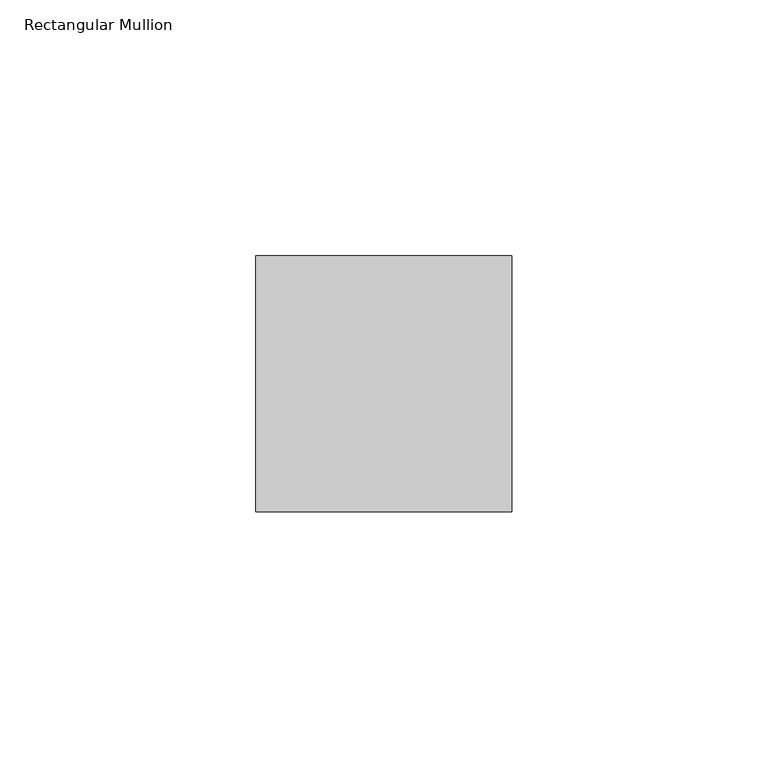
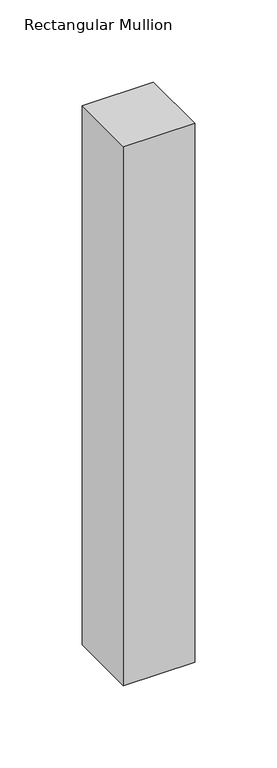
"""IFC4 building model written with IfcOpenShell, lengths in millimetres: member geometry, Rectangular Mullion : RSen_21_CWM_support profile 50x50 - right_gen_duco projects."""

from ifc_helpers import new_model, si_unit, frame, origin, place, context, project, spatial, polyline, outline, extrude, source, transform, mapped, element, save


def rectangular_mullion_4a4034a1(model_context):
    return source(origin(), model_context, "Body", "SweptSolid", [
        extrude(outline(polyline([(-50.0, 1.0), (0.0, 1.0), (0.0, -49.0), (-50.0, -49.0), (-50.0, 1.0)])), frame((0.0, 0.0, -400.0), z_axis=(0.0, 0.0, 1.0), x_axis=(1.0, 0.0, 0.0)), (0.0, 0.0, 1.0), 400.0),
    ])


if __name__ == "__main__":
    model = new_model("IFC4")
    model_context = context("Model", 3, world=origin())
    ifc_project = project(units=[si_unit("LENGTHUNIT", "METRE", prefix="MILLI")], contexts=[model_context])
    site = spatial("IfcSite", under=ifc_project)
    building = spatial("IfcBuilding", under=site)
    placement = place(None, origin())
    rectangular_mullion_shape = rectangular_mullion_4a4034a1(model_context)
    element("IfcMember", 1, ObjectType="Rectangular Mullion : RSen_21_CWM_support profile 50x50 - right_gen_duco projects", at=placement, inside=building, context=model_context, shape_type="MappedRepresentation", body=[
        mapped(rectangular_mullion_shape, transform((0.0, 0.0, 0.0), x_axis=(1.0, 0.0, 0.0), y_axis=(0.0, 1.0, 0.0), z_axis=(0.0, 0.0, 1.0))),
    ])
    save(model, "model.ifc")
